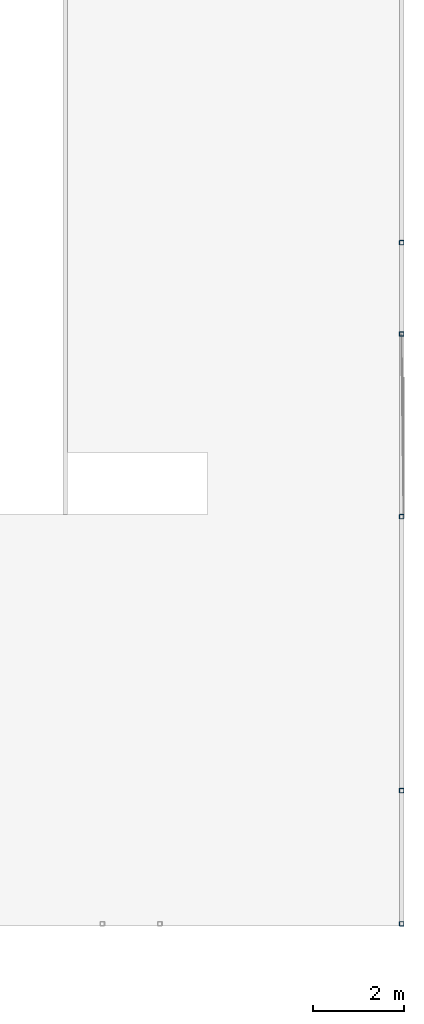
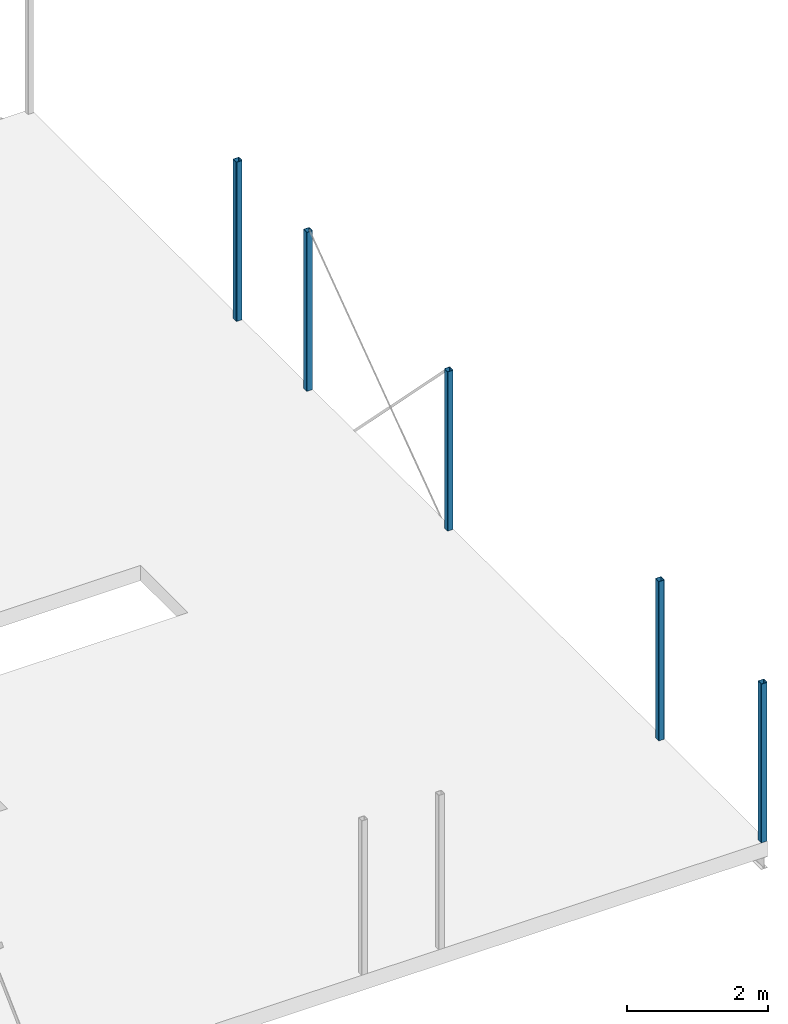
# One storey, part 3 of 7: 5 columns.
"""IFC2X3 building model written with IfcOpenShell, lengths in millimetres."""

from ifc_helpers import new_model, entity, si_unit, converted_unit, derived_unit, direction, frame, frame_2d, origin, place, context, subcontext, project, spatial, polyline, circle_curve, parameter, trimmed, segment, composite_curve, outline, extrude, source, transform, mapped, material, type_object, type_shapes, element, save


model = new_model("IFC2X3")

# Units and contexts
model_context = context("Model", 3, precision=0.01, world=origin(), true_north=direction((6.12303176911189e-17, 1.0)))
body_context = subcontext(model_context, "Body", "Model", "MODEL_VIEW")
ifc_project = project(units=[si_unit("LENGTHUNIT", "METRE", prefix="MILLI"), si_unit("AREAUNIT", "SQUARE_METRE"), si_unit("VOLUMEUNIT", "CUBIC_METRE"), converted_unit("PLANEANGLEUNIT", "DEGREE", entity("IfcRatioMeasure", 0.0174532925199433), si_unit("PLANEANGLEUNIT", "RADIAN"), dimensions=[0, 0, 0, 0, 0, 0, 0]), si_unit("MASSUNIT", "GRAM", prefix="KILO"), derived_unit("MASSDENSITYUNIT", [(si_unit("MASSUNIT", "GRAM", prefix="KILO"), 1), (si_unit("LENGTHUNIT", "METRE"), -3)]), si_unit("TIMEUNIT", "SECOND"), si_unit("FREQUENCYUNIT", "HERTZ"), si_unit("THERMODYNAMICTEMPERATUREUNIT", "DEGREE_CELSIUS"), derived_unit("THERMALTRANSMITTANCEUNIT", [(si_unit("MASSUNIT", "GRAM", prefix="KILO"), 1), (si_unit("THERMODYNAMICTEMPERATUREUNIT", "KELVIN"), -1), (si_unit("TIMEUNIT", "SECOND"), -3)]), derived_unit("VOLUMETRICFLOWRATEUNIT", [(si_unit("LENGTHUNIT", "METRE"), 3), (si_unit("TIMEUNIT", "SECOND"), -1)]), si_unit("ELECTRICCURRENTUNIT", "AMPERE"), si_unit("ELECTRICVOLTAGEUNIT", "VOLT"), si_unit("POWERUNIT", "WATT"), si_unit("FORCEUNIT", "NEWTON", prefix="KILO"), si_unit("ILLUMINANCEUNIT", "LUX"), si_unit("LUMINOUSFLUXUNIT", "LUMEN"), si_unit("LUMINOUSINTENSITYUNIT", "CANDELA"), derived_unit("USERDEFINED", [(si_unit("MASSUNIT", "GRAM", prefix="KILO"), -1), (si_unit("LENGTHUNIT", "METRE"), -2), (si_unit("TIMEUNIT", "SECOND"), 3), (si_unit("LUMINOUSFLUXUNIT", "LUMEN"), 1)]), derived_unit("LINEARVELOCITYUNIT", [(si_unit("LENGTHUNIT", "METRE"), 1), (si_unit("TIMEUNIT", "SECOND"), -1)]), si_unit("PRESSUREUNIT", "PASCAL"), derived_unit("USERDEFINED", [(si_unit("LENGTHUNIT", "METRE"), -2), (si_unit("MASSUNIT", "GRAM", prefix="KILO"), 1), (si_unit("TIMEUNIT", "SECOND"), -2)])], contexts=[model_context])

# Site, building, storey
site_placement = place(None, frame((0.0, 0.0, 101000.0)))
site = spatial("IfcSite", under=ifc_project, at=site_placement, Name="Default", CompositionType="ELEMENT")
building_placement = place(site_placement, origin())
building = spatial("IfcBuilding", under=site, at=building_placement, CompositionType="ELEMENT")
storey_placement = place(building_placement, frame((0.0, 0.0, 3150.0)))
storey = spatial("IfcBuildingStorey", under=building, at=storey_placement, Name="02", CompositionType="ELEMENT", Elevation=3149.9999999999)

# Columns
ifc_material = material(Name="S355")
column_type_1 = type_object("IfcColumnType", Name="HUP 100x100x6.3", PredefinedType="COLUMN", material=ifc_material)
shared_shape_1 = source(origin(), body_context, "Body", "SweptSolid", [
    extrude(outline(composite_curve([segment(polyline([(-37.4000000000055, -50.0), (37.4000000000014, -50.0)]), True, "CONTINUOUS"), segment(trimmed(circle_curve(frame_2d((37.4000000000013, -37.3999999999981), x_axis=(-1.0, 0.0)), 12.6000000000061), [parameter(90.0000000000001)], [parameter(180.0)], True, "PARAMETER"), True, "CONTINUOUS"), segment(polyline([(50.0, -37.3999999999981), (50.0, 37.4000000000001)]), True, "CONTINUOUS"), segment(trimmed(circle_curve(frame_2d((37.4000000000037, 37.4000000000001), x_axis=(-1.0, 0.0)), 12.6000000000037), [parameter(180.0)], [parameter(270.0)], True, "PARAMETER"), True, "CONTINUOUS"), segment(polyline([(37.4000000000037, 50.0), (-37.4000000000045, 50.0)]), True, "CONTINUOUS"), segment(trimmed(circle_curve(frame_2d((-37.4000000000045, 37.4000000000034), x_axis=(-1.0, 0.0)), 12.6000000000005), [parameter(270.0)], [parameter(360.0)], True, "PARAMETER"), True, "CONTINUOUS"), segment(polyline([(-50.0, 37.4000000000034), (-50.0, -37.4000000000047)]), True, "CONTINUOUS"), segment(trimmed(circle_curve(frame_2d((-37.4000000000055, -37.4000000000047), x_axis=(-1.0, 0.0)), 12.5999999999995), [parameter(360.0)], [parameter(89.9999999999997)], True, "PARAMETER"), True, "CONTINUOUS")], self_intersect=False), holes=[composite_curve([segment(trimmed(circle_curve(frame_2d((-37.4000000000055, -37.4000000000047), x_axis=(-1.0, 0.0)), 6.2999999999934), [parameter(0.0)], [parameter(90.0)], True, "PARAMETER"), False, "CONTINUOUS"), segment(polyline([(-43.6999999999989, -37.4000000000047), (-43.6999999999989, 37.4000000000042)]), True, "CONTINUOUS"), segment(trimmed(circle_curve(frame_2d((-37.4000000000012, 37.4000000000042), x_axis=(-1.0, 0.0)), 6.29999999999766), [parameter(270.0)], [parameter(360.0)], True, "PARAMETER"), False, "CONTINUOUS"), segment(polyline([(-37.4000000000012, 43.7000000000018), (37.3999999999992, 43.7000000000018)]), True, "CONTINUOUS"), segment(trimmed(circle_curve(frame_2d((37.3999999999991, 37.3999999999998), x_axis=(-1.0, 0.0)), 6.30000000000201), [parameter(180.0)], [parameter(270.0)], True, "PARAMETER"), False, "CONTINUOUS"), segment(polyline([(43.7000000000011, 37.3999999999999), (43.7000000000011, -37.3999999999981)]), True, "CONTINUOUS"), segment(trimmed(circle_curve(frame_2d((37.4000000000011, -37.3999999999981), x_axis=(-1.0, 0.0)), 6.30000000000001), [parameter(90.0000000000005)], [parameter(180.0)], True, "PARAMETER"), False, "CONTINUOUS"), segment(polyline([(37.4000000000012, -43.6999999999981), (-37.4000000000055, -43.6999999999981)]), True, "CONTINUOUS")], self_intersect=False)]), frame((0.0, 0.0, 3150.0), z_axis=(0.0, 0.0, 1.0), x_axis=(-1.0, 0.0, 0.0)), (0.0, 0.0, 1.0), 2755.0),
])
type_shapes(column_type_1, [shared_shape_1])
column_1_placement = place(storey_placement, frame((23111.2644969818, 36417.9507529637, -3150.0)))
element("IfcColumn", 1, at=column_1_placement, inside=storey, type_object=column_type_1, material=ifc_material, Name="Søyle HUP:HUP 100x100x6.3", ObjectType="HUP 100x100x6.3", context=body_context, shape_type="MappedRepresentation", body=[
    mapped(shared_shape_1, transform((0.0, 0.0, 0.0), scale=1.0)),
])
column_type_2 = type_object("IfcColumnType", Name="HUP 100x100x6.3", PredefinedType="COLUMN", material=ifc_material)
shared_shape_2 = source(origin(), body_context, "Body", "SweptSolid", [
    extrude(outline(composite_curve([segment(polyline([(-37.3999999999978, -50.0), (37.4000000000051, -50.0)]), True, "CONTINUOUS"), segment(trimmed(circle_curve(frame_2d((37.4000000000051, -37.3999999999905), x_axis=(-1.0, 0.0)), 12.6000000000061), [parameter(90.0000000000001)], [parameter(180.0)], True, "PARAMETER"), True, "CONTINUOUS"), segment(polyline([(50.0, -37.3999999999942), (50.0, 37.4000000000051)]), True, "CONTINUOUS"), segment(trimmed(circle_curve(frame_2d((37.4000000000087, 37.4000000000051), x_axis=(-1.0, 0.0)), 12.6000000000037), [parameter(180.0)], [parameter(270.0)], True, "PARAMETER"), True, "CONTINUOUS"), segment(polyline([(37.4000000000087, 50.0), (-37.3999999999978, 50.0)]), True, "CONTINUOUS"), segment(trimmed(circle_curve(frame_2d((-37.3999999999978, 37.4000000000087), x_axis=(-1.0, 0.0)), 12.6000000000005), [parameter(270.0)], [parameter(360.0)], True, "PARAMETER"), True, "CONTINUOUS"), segment(polyline([(-50.0, 37.4000000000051), (-50.0, -37.4000000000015)]), True, "CONTINUOUS"), segment(trimmed(circle_curve(frame_2d((-37.3999999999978, -37.4000000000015), x_axis=(-1.0, 0.0)), 12.5999999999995), [parameter(360.0)], [parameter(89.9999999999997)], True, "PARAMETER"), True, "CONTINUOUS")], self_intersect=False), holes=[composite_curve([segment(trimmed(circle_curve(frame_2d((-37.3999999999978, -37.4000000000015), x_axis=(-1.0, 0.0)), 6.2999999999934), [parameter(0.0)], [parameter(90.0)], True, "PARAMETER"), False, "CONTINUOUS"), segment(polyline([(-43.6999999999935, -37.4000000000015), (-43.6999999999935, 37.4000000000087)]), True, "CONTINUOUS"), segment(trimmed(circle_curve(frame_2d((-37.3999999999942, 37.4000000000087), x_axis=(-1.0, 0.0)), 6.29999999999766), [parameter(270.0)], [parameter(360.0)], True, "PARAMETER"), False, "CONTINUOUS"), segment(polyline([(-37.3999999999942, 43.7000000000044), (37.4000000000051, 43.7000000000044)]), True, "CONTINUOUS"), segment(trimmed(circle_curve(frame_2d((37.4000000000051, 37.4000000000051), x_axis=(-1.0, 0.0)), 6.30000000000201), [parameter(180.0)], [parameter(270.0)], True, "PARAMETER"), False, "CONTINUOUS"), segment(polyline([(43.7000000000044, 37.4000000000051), (43.7000000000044, -37.3999999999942)]), True, "CONTINUOUS"), segment(trimmed(circle_curve(frame_2d((37.4000000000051, -37.3999999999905), x_axis=(-1.0, 0.0)), 6.30000000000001), [parameter(90.0000000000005)], [parameter(180.0)], True, "PARAMETER"), False, "CONTINUOUS"), segment(polyline([(37.4000000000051, -43.6999999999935), (-37.3999999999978, -43.6999999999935)]), True, "CONTINUOUS")], self_intersect=False)]), frame((23111.2644969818, 23497.9507529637, 3150.0), z_axis=(0.0, 0.0, 1.0), x_axis=(-1.0, 0.0, 0.0)), (0.0, 0.0, 1.0), 2755.0),
])
type_shapes(column_type_2, [shared_shape_2])
column_2_placement = place(storey_placement, frame((0.0, 0.0, -3150.0)))
element("IfcColumn", 2, at=column_2_placement, inside=storey, type_object=column_type_2, material=ifc_material, Name="Søyle HUP:HUP 100x100x6.3", ObjectType="HUP 100x100x6.3", context=body_context, shape_type="MappedRepresentation", body=[
    mapped(shared_shape_2, transform((0.0, 0.0, 0.0), scale=1.0)),
])
column_type_3 = type_object("IfcColumnType", Name="HUP 100x100x6.3", PredefinedType="COLUMN", material=ifc_material)
shared_shape_3 = source(origin(), body_context, "Body", "SweptSolid", [
    extrude(outline(composite_curve([segment(polyline([(-37.4000000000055, -50.0), (37.4000000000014, -50.0)]), True, "CONTINUOUS"), segment(trimmed(circle_curve(frame_2d((37.4000000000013, -37.3999999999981), x_axis=(-1.0, 0.0)), 12.6000000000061), [parameter(90.0000000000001)], [parameter(180.0)], True, "PARAMETER"), True, "CONTINUOUS"), segment(polyline([(50.0, -37.3999999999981), (50.0, 37.4000000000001)]), True, "CONTINUOUS"), segment(trimmed(circle_curve(frame_2d((37.4000000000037, 37.4000000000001), x_axis=(-1.0, 0.0)), 12.6000000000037), [parameter(180.0)], [parameter(270.0)], True, "PARAMETER"), True, "CONTINUOUS"), segment(polyline([(37.4000000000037, 50.0), (-37.4000000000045, 50.0)]), True, "CONTINUOUS"), segment(trimmed(circle_curve(frame_2d((-37.4000000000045, 37.4000000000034), x_axis=(-1.0, 0.0)), 12.6000000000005), [parameter(270.0)], [parameter(360.0)], True, "PARAMETER"), True, "CONTINUOUS"), segment(polyline([(-50.0, 37.4000000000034), (-50.0, -37.4000000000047)]), True, "CONTINUOUS"), segment(trimmed(circle_curve(frame_2d((-37.4000000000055, -37.4000000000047), x_axis=(-1.0, 0.0)), 12.5999999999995), [parameter(360.0)], [parameter(89.9999999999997)], True, "PARAMETER"), True, "CONTINUOUS")], self_intersect=False), holes=[composite_curve([segment(trimmed(circle_curve(frame_2d((-37.4000000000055, -37.4000000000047), x_axis=(-1.0, 0.0)), 6.2999999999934), [parameter(0.0)], [parameter(90.0)], True, "PARAMETER"), False, "CONTINUOUS"), segment(polyline([(-43.6999999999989, -37.4000000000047), (-43.6999999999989, 37.4000000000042)]), True, "CONTINUOUS"), segment(trimmed(circle_curve(frame_2d((-37.4000000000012, 37.4000000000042), x_axis=(-1.0, 0.0)), 6.29999999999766), [parameter(270.0)], [parameter(360.0)], True, "PARAMETER"), False, "CONTINUOUS"), segment(polyline([(-37.4000000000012, 43.7000000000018), (37.3999999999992, 43.7000000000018)]), True, "CONTINUOUS"), segment(trimmed(circle_curve(frame_2d((37.3999999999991, 37.3999999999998), x_axis=(-1.0, 0.0)), 6.30000000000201), [parameter(180.0)], [parameter(270.0)], True, "PARAMETER"), False, "CONTINUOUS"), segment(polyline([(43.7000000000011, 37.3999999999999), (43.7000000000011, -37.3999999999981)]), True, "CONTINUOUS"), segment(trimmed(circle_curve(frame_2d((37.4000000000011, -37.3999999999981), x_axis=(-1.0, 0.0)), 6.30000000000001), [parameter(90.0000000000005)], [parameter(180.0)], True, "PARAMETER"), False, "CONTINUOUS"), segment(polyline([(37.4000000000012, -43.6999999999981), (-37.4000000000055, -43.6999999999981)]), True, "CONTINUOUS")], self_intersect=False)]), frame((0.0, 0.0, 3150.0), z_axis=(0.0, 0.0, 1.0), x_axis=(-1.0, 0.0, 0.0)), (0.0, 0.0, 1.0), 2761.0),
])
type_shapes(column_type_3, [shared_shape_3])
for number, where, name in (
    (3, (23111.2644969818, 26417.9507529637, -3150.0), "Søyle HUP:HUP 100x100x6.3"),
    (4, (23111.2644969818, 32417.9507529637, -3150.0), "Søyle HUP:HUP 100x100x6.3"),
    (5, (23111.2644969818, 38417.9507529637, -3150.0), "Søyle HUP:HUP 100x100x6.3"),
):
    element("IfcColumn", number, at=place(storey_placement, frame(where)), inside=storey, type_object=column_type_3, material=ifc_material, Name=name, ObjectType="HUP 100x100x6.3", context=body_context, shape_type="MappedRepresentation", body=[
        mapped(shared_shape_3, transform((0.0, 0.0, 0.0), scale=1.0)),
    ])

save(model, "model.ifc")
